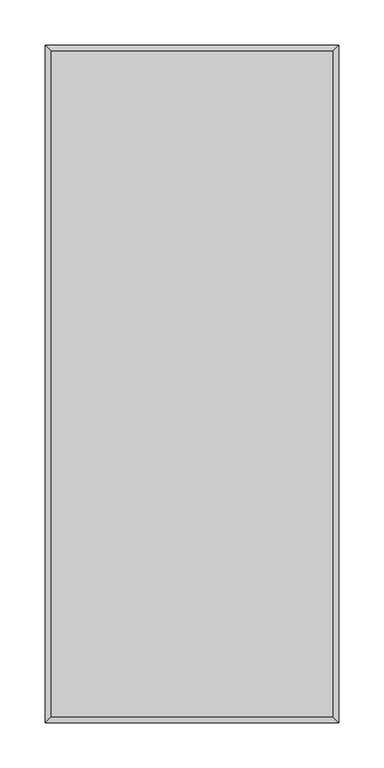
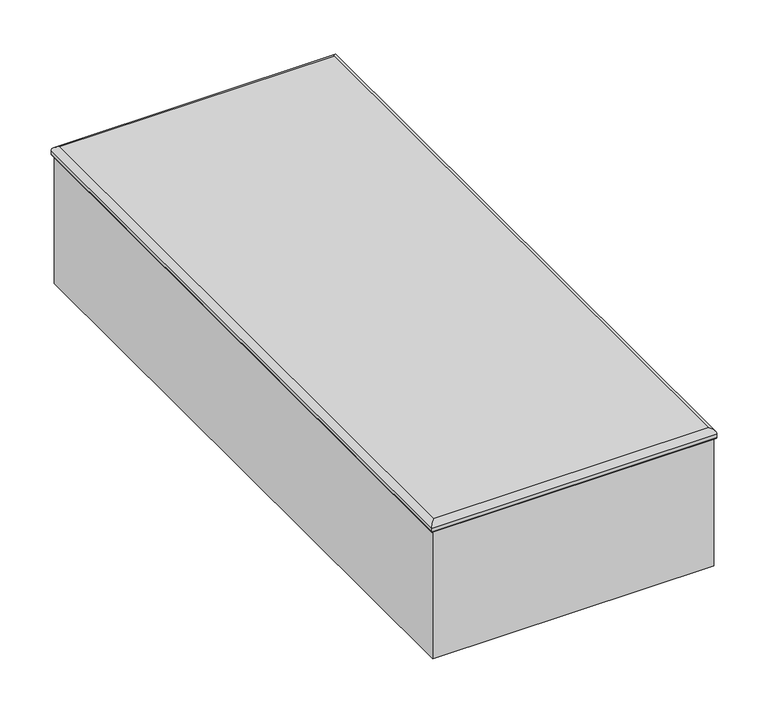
"""IFC4 building model written with IfcOpenShell, lengths in millimetres: furniture geometry, Stance_HC-Flora-Table_Straight : FAT13296C-S."""

from ifc_helpers import new_model, si_unit, frame, origin, place, context, project, spatial, polyline, ellipse_curve, outline, extrude, source, transform, mapped, element, save
from ifc_brep_helpers import plane_surface, cylinder_surface, advanced_brep


def furniture_616b9f79(model_context):
    return source(origin(), model_context, "Body", "SolidModel", [
        advanced_brep(
        [(313.5376045, -746.9251045, 361.2210174), (313.5376045, -15.0748955, 361.2210174), (3.9623955, -15.0748955, 361.2210174), (3.9623955, -746.9251045, 361.2210174), (318.087372, -10.525128, 349.249991), (318.087372, -751.474872, 349.249991), (-0.587372, -751.474872, 349.249991), (-0.587372, -10.525128, 349.249991), (319.8876045, -8.7248955, 354.888882), (319.8876045, -753.2751045, 354.888882), (319.8876045, -753.2751045, 350.9190376), (319.8876045, -8.7248955, 350.9190376), (-2.3876045, -753.2751045, 354.888882), (-2.3876045, -753.2751045, 350.9190376), (-2.3876045, -8.7248955, 354.888882), (-2.3876045, -8.7248955, 350.9190376)],
        [
            (0, 1),
            (1, 2),
            (2, 3),
            (3, 0),
            (4, 5),
            (5, 6),
            (6, 7),
            (7, 4),
            (8, 1, ellipse_curve(frame((313.5376045, -15.0748955, 354.8709922), z_axis=(0.7071067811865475, -0.7071067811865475, 0.0), x_axis=(0.7071067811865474, 0.7071067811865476, 0.0)), 8.9802918, 6.3500252)),
            (0, 9, ellipse_curve(frame((313.5376045, -746.9251045, 354.8709922), z_axis=(0.7071067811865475, 0.7071067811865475, 0.0), x_axis=(-0.7071067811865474, 0.7071067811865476, 0.0)), 8.9802918, 6.3500252)),
            (9, 8),
            (9, 10),
            (10, 11),
            (11, 8),
            (10, 5, ellipse_curve(frame((318.2137781, -751.6012781, 350.9190376), z_axis=(0.7071067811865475, 0.7071067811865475, 0.0), x_axis=(-0.7071067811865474, 0.7071067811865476, 0.0)), 2.3671481, 1.6738265)),
            (4, 11, ellipse_curve(frame((318.2137781, -10.3987219, 350.9190376), z_axis=(0.7071067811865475, -0.7071067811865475, 0.0), x_axis=(0.7071067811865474, 0.7071067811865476, 0.0)), 2.3671481, 1.6738265)),
            (3, 12, ellipse_curve(frame((3.9623955, -746.9251045, 354.8709922), z_axis=(0.7071067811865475, -0.7071067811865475, 0.0), x_axis=(0.7071067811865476, 0.7071067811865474, 0.0)), 8.9802918, 6.3500252)),
            (12, 9),
            (12, 13),
            (13, 10),
            (13, 6, ellipse_curve(frame((-0.7137781, -751.6012781, 350.9190376), z_axis=(0.7071067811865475, -0.7071067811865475, 0.0), x_axis=(0.7071067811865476, 0.7071067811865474, 0.0)), 2.3671481, 1.6738265)),
            (2, 14, ellipse_curve(frame((3.9623955, -15.0748955, 354.8709922), z_axis=(-0.7071067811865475, -0.7071067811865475, 0.0), x_axis=(0.7071067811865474, -0.7071067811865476, 0.0)), 8.9802918, 6.3500252)),
            (14, 12),
            (14, 15),
            (15, 13),
            (15, 7, ellipse_curve(frame((-0.7137781, -10.3987219, 350.9190376), z_axis=(-0.7071067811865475, -0.7071067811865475, 0.0), x_axis=(0.7071067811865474, -0.7071067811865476, 0.0)), 2.3671481, 1.6738265)),
            (8, 14),
            (11, 15),
        ],
        [
            plane_surface(frame((3.9623955, -15.0748955, 361.2210174), z_axis=(0.0, 0.0, 1.0), x_axis=(0.0, -1.0, 0.0))),
            plane_surface(frame((3.9623955, -15.0748955, 349.249991), z_axis=(0.0, 0.0, -1.0), x_axis=(0.0, 1.0, 0.0))),
            cylinder_surface(frame((313.5376045, -11.1125, 354.8709922), z_axis=(0.0, 1.0, 0.0), x_axis=(1.0, 0.0, 0.0)), 6.3500252),
            plane_surface(frame((319.8876045, -8.7248955, 354.888882), z_axis=(1.0, 0.0, 0.0), x_axis=(0.0, -1.0, 0.0))),
            cylinder_surface(frame((318.2137781, -11.1125, 350.9190376), z_axis=(0.0, 1.0, 0.0), x_axis=(1.0, 0.0, 0.0)), 1.6738265),
            cylinder_surface(frame((317.5, -746.9251045, 354.8709922), z_axis=(1.0, 0.0, 0.0), x_axis=(0.0, -1.0, 0.0)), 6.3500252),
            plane_surface(frame((319.8876045, -753.2751045, 354.888882), z_axis=(0.0, -1.0, 0.0), x_axis=(-1.0, 0.0, 0.0))),
            cylinder_surface(frame((317.5, -751.6012781, 350.9190376), z_axis=(1.0, 0.0, 0.0), x_axis=(0.0, -1.0, 0.0)), 1.6738265),
            cylinder_surface(frame((3.9623955, -750.8875, 354.8709922), z_axis=(0.0, -1.0, 0.0), x_axis=(-1.0, 0.0, 0.0)), 6.3500252),
            plane_surface(frame((-2.3876045, -753.2751045, 354.888882), z_axis=(-1.0, 0.0, 0.0), x_axis=(0.0, 1.0, 0.0))),
            cylinder_surface(frame((-0.7137781, -750.8875, 350.9190376), z_axis=(0.0, -1.0, 0.0), x_axis=(-1.0, 0.0, 0.0)), 1.6738265),
            cylinder_surface(frame((0.0, -15.0748955, 354.8709922), z_axis=(-1.0, 0.0, 0.0), x_axis=(0.0, 1.0, 0.0)), 6.3500252),
            plane_surface(frame((-2.3876045, -8.7248955, 354.888882), z_axis=(0.0, 1.0, 0.0), x_axis=(1.0, 0.0, 0.0))),
            cylinder_surface(frame((0.0, -10.3987219, 350.9190376), z_axis=(-1.0, 0.0, 0.0), x_axis=(0.0, 1.0, 0.0)), 1.6738265),
        ],
        [
            (0, [[1, 2, 3, 4]]),
            (1, [[5, 6, 7, 8]]),
            (2, [[9, -1, 10, 11]]),
            (3, [[-11, 12, 13, 14]]),
            (4, [[-13, 15, -5, 16]]),
            (5, [[-10, -4, 17, 18]]),
            (6, [[-12, -18, 19, 20]]),
            (7, [[-15, -20, 21, -6]]),
            (8, [[-17, -3, 22, 23]]),
            (9, [[-19, -23, 24, 25]]),
            (10, [[-21, -25, 26, -7]]),
            (11, [[-9, 27, -22, -2]]),
            (12, [[-14, 28, -24, -27]]),
            (13, [[-16, -8, -26, -28]]),
        ],
    ),
        extrude(outline(polyline([(317.5, -11.1125), (317.5, -750.8875), (0.0, -750.8875), (0.0, -11.1125), (317.5, -11.1125)])), frame((0.0, 0.0, 196.85), z_axis=(0.0, 0.0, 1.0), x_axis=(1.0, 0.0, 0.0)), (0.0, 0.0, 1.0), 152.399991),
    ])


if __name__ == "__main__":
    model = new_model("IFC4")
    model_context = context("Model", 3, world=origin())
    ifc_project = project(units=[si_unit("LENGTHUNIT", "METRE", prefix="MILLI")], contexts=[model_context])
    site = spatial("IfcSite", under=ifc_project)
    building = spatial("IfcBuilding", under=site)
    placement = place(None, origin())
    furniture_shape = furniture_616b9f79(model_context)
    element("IfcFurniture", 1, ObjectType="Stance_HC-Flora-Table_Straight : FAT13296C-S", at=placement, inside=building, context=model_context, shape_type="MappedRepresentation", body=[
        mapped(furniture_shape, transform((0.0, 0.0, 0.0), x_axis=(1.0, 0.0, 0.0), y_axis=(0.0, 1.0, 0.0), z_axis=(0.0, 0.0, 1.0))),
    ])
    save(model, "model.ifc")
